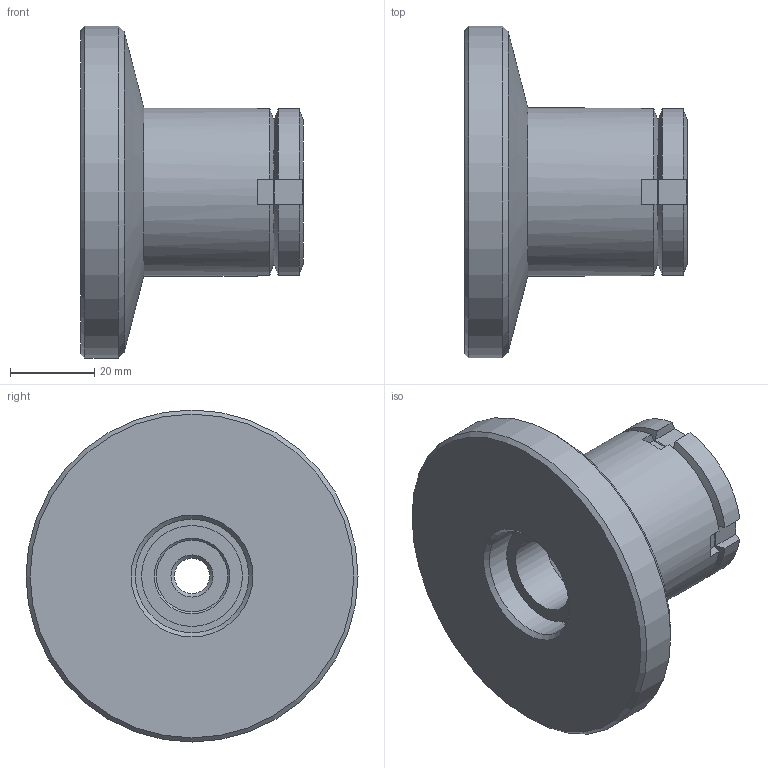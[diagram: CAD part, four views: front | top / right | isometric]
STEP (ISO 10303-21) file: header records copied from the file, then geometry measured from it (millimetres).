
FILE_DESCRIPTION( ( 'STEP AP203' ), '1' );
FILE_NAME( 'C:/Temp/Ganter_Step_05_03_2020/data/3_2/gn360/gn360_st/Levelling set GN 360-79-M10-69-A-ST (0-0).stp', '2020-03-13T05:41:45', ( 'License CC BY-ND 4.0' ), ( 'CADENAS' ), ' ', 'PARTsolutions', ' ' );
FILE_SCHEMA( ( 'CONFIG_CONTROL_DESIGN' ) );
Length unit declared in the file: millimetre
Products named in the file (4): Levelling set GN 360-79-M10-69-A-ST (0-0); _Levelling set GN 360-79-M10-69-A-ST (0-0)-1; _Levelling set GN 360-79-M10-69-A-ST (0-0)-2; _Levelling set GN 360-79-M10-69-A-ST (0-0)-3
Assembly tree (3 placements, depth 2):
  Levelling set GN 360-79-M10-69-A-ST (0-0)
    _Levelling set GN 360-79-M10-69-A-ST (0-0)-1
    _Levelling set GN 360-79-M10-69-A-ST (0-0)-2
    _Levelling set GN 360-79-M10-69-A-ST (0-0)-3
Bounding box: 53 x 79 x 79 mm (x, y, z)
Volume: 97275.1 mm3; surface area: 29358.8 mm2
Topology: 3 solids, 3 shells, 73 faces, 170 edges, 108 vertices
Faces by surface type: plane 39, cylinder 17, cone 14, sphere 2, torus 1
Full cylindrical faces by diameter (mm): 8.376 x1, 17 x1, 18 x1, 20 x1, 23.5 x1, 24 x1, 26 x1, 26.376 x1, 27 x1, 28 x1, 28.5 x1, 40 x1, 79 x1
Entity records: 2121 total; most frequent: CARTESIAN_POINT 483, DIRECTION 308, ORIENTED_EDGE 270, EDGE_CURVE 135, AXIS2_PLACEMENT_3D 132, EDGE_LOOP 114, VERTEX_POINT 103, FACE_OUTER_BOUND 89
